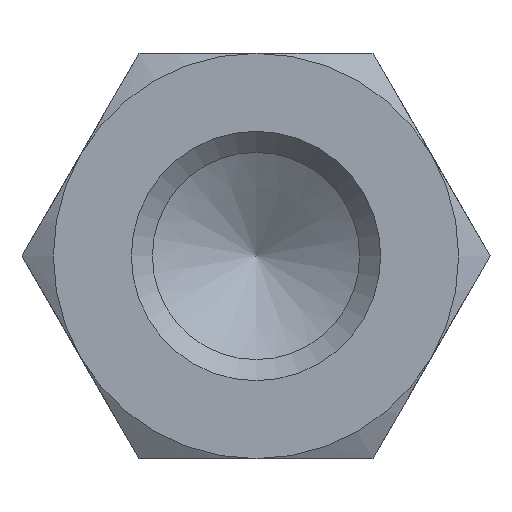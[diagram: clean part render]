
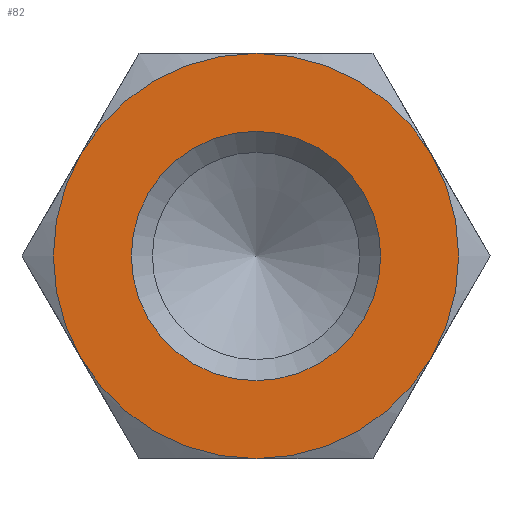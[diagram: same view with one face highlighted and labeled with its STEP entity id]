
A CAD part, left-side view. The second image highlights one B-rep face of the part: STEP entity #82.
In plain terms, the highlighted planar face has unit normal (-1, 0, 0).
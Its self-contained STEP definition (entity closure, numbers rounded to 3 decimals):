
#82 = ADVANCED_FACE( '', ( #119, #120 ), #121, .F. );
#119 = FACE_OUTER_BOUND( '', #179, .T. );
#120 = FACE_BOUND( '', #180, .T. );
#121 = PLANE( '', #181 );
#179 = EDGE_LOOP( '', ( #264, #265, #266, #267, #268, #269 ) );
#180 = EDGE_LOOP( '', ( #270 ) );
#181 = AXIS2_PLACEMENT_3D( '', #271, #272, #273 );
#264 = ORIENTED_EDGE( '', *, *, #416, .F. );
#265 = ORIENTED_EDGE( '', *, *, #417, .F. );
#266 = ORIENTED_EDGE( '', *, *, #418, .F. );
#267 = ORIENTED_EDGE( '', *, *, #409, .F. );
#268 = ORIENTED_EDGE( '', *, *, #405, .F. );
#269 = ORIENTED_EDGE( '', *, *, #406, .F. );
#270 = ORIENTED_EDGE( '', *, *, #419, .T. );
#271 = CARTESIAN_POINT( '', ( 0., 0., 0. ) );
#272 = DIRECTION( '', ( 1., 0., 0. ) );
#273 = DIRECTION( '', ( 0., 0., -1. ) );
#405 = EDGE_CURVE( '', #457, #454, #459, .T. );
#406 = EDGE_CURVE( '', #460, #457, #461, .T. );
#409 = EDGE_CURVE( '', #454, #465, #466, .T. );
#416 = EDGE_CURVE( '', #477, #460, #478, .T. );
#417 = EDGE_CURVE( '', #479, #477, #480, .T. );
#418 = EDGE_CURVE( '', #465, #479, #481, .T. );
#419 = EDGE_CURVE( '', #482, #482, #483, .T. );
#454 = VERTEX_POINT( '', #532 );
#457 = VERTEX_POINT( '', #542 );
#459 = CIRCLE( '', #549, 6.5 );
#460 = VERTEX_POINT( '', #550 );
#461 = CIRCLE( '', #551, 6.5 );
#465 = VERTEX_POINT( '', #565 );
#466 = CIRCLE( '', #566, 6.5 );
#477 = VERTEX_POINT( '', #601 );
#478 = CIRCLE( '', #602, 6.5 );
#479 = VERTEX_POINT( '', #603 );
#480 = CIRCLE( '', #604, 6.5 );
#481 = CIRCLE( '', #605, 6.5 );
#482 = VERTEX_POINT( '', #606 );
#483 = CIRCLE( '', #607, 4. );
#532 = CARTESIAN_POINT( '', ( 0., -5.629, 3.25 ) );
#542 = CARTESIAN_POINT( '', ( 0., 0., 6.5 ) );
#549 = AXIS2_PLACEMENT_3D( '', #755, #756, #757 );
#550 = CARTESIAN_POINT( '', ( 0., 5.629, 3.25 ) );
#551 = AXIS2_PLACEMENT_3D( '', #758, #759, #760 );
#565 = CARTESIAN_POINT( '', ( 0., -5.629, -3.25 ) );
#566 = AXIS2_PLACEMENT_3D( '', #761, #762, #763 );
#601 = CARTESIAN_POINT( '', ( 0., 5.629, -3.25 ) );
#602 = AXIS2_PLACEMENT_3D( '', #766, #767, #768 );
#603 = CARTESIAN_POINT( '', ( 0., 0., -6.5 ) );
#604 = AXIS2_PLACEMENT_3D( '', #769, #770, #771 );
#605 = AXIS2_PLACEMENT_3D( '', #772, #773, #774 );
#606 = CARTESIAN_POINT( '', ( 0., 0., -4. ) );
#607 = AXIS2_PLACEMENT_3D( '', #775, #776, #777 );
#755 = CARTESIAN_POINT( '', ( 0., 0., 0. ) );
#756 = DIRECTION( '', ( 1., 0., 0. ) );
#757 = DIRECTION( '', ( 0., 0., -1. ) );
#758 = CARTESIAN_POINT( '', ( 0., 0., 0. ) );
#759 = DIRECTION( '', ( 1., 0., 0. ) );
#760 = DIRECTION( '', ( 0., 0., -1. ) );
#761 = CARTESIAN_POINT( '', ( 0., 0., 0. ) );
#762 = DIRECTION( '', ( 1., 0., 0. ) );
#763 = DIRECTION( '', ( 0., 0., -1. ) );
#766 = CARTESIAN_POINT( '', ( 0., 0., 0. ) );
#767 = DIRECTION( '', ( 1., 0., 0. ) );
#768 = DIRECTION( '', ( 0., 0., -1. ) );
#769 = CARTESIAN_POINT( '', ( 0., 0., 0. ) );
#770 = DIRECTION( '', ( 1., 0., 0. ) );
#771 = DIRECTION( '', ( 0., 0., -1. ) );
#772 = CARTESIAN_POINT( '', ( 0., 0., 0. ) );
#773 = DIRECTION( '', ( 1., 0., 0. ) );
#774 = DIRECTION( '', ( 0., 0., -1. ) );
#775 = CARTESIAN_POINT( '', ( 0., 0., 0. ) );
#776 = DIRECTION( '', ( 1., 0., 0. ) );
#777 = DIRECTION( '', ( 0., 0., -1. ) );
